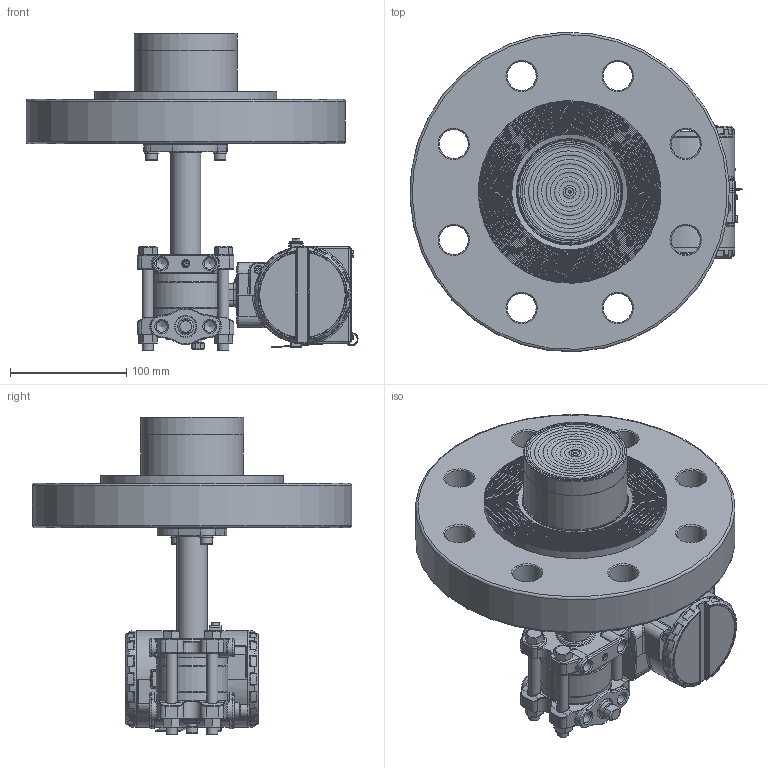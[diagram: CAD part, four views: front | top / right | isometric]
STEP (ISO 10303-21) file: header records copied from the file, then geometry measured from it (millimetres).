
FILE_DESCRIPTION(/* description */ (''),/* implementation_level */ '2;1');
FILE_NAME(/* name */ 'F:\Area\Desenvolvimento_2\Projects\Sensor\projetos\LD30X\montagens 3d - clientes\SELO NIVEL\LD30XL 4-600 RF ext 50 ref 1-4NPT purga acima.stp',/* time_stamp */ '2023-02-15T08:44:30-03:00',/* author */ ('inventor02'),/* organization */ (''),/* preprocessor_version */ 'ST-DEVELOPER v17',/* originating_system */ 'Autodesk Inventor 2019',/* authorisation */ '');
FILE_SCHEMA (('CONFIG_CONTROL_DESIGN'));
Products named in the file (41): LD30XL 4-600 RF ext 50 ref 1-4NPT purga acima; 204-0301-L-4 600 RF ext 50 purga acima; nivel fx3 com baixa diferencial 1-4NPT purga acima; involucro fx0-3 apos a usinagem final; flange diferencial std purga; 101-C-7484-01 flange selo nivel VR; 201-A-0504-tubo união teste 1; bujao 1-4NPT; Sangria; Porca 3-8 x 16 UNC; Paraf. 3-8 x 16 UNC; adaptação tubo x flanges 1-1-2 a 4pol; 101-B-0161-anel cortado do tubo - teste1; 101-B-0162-flange fixação tubo; ANSI B18.3.1M - M6x1 x 16; DIN 127 - A 6; flange 4 600 ext 50; 101-C-0132-09; 096-B-0212-15; 101-B-7702-02 ext 4-50; carcaça vazia com tampas e plaqueta; carcaça LD inox sem letras; Subconjunto plaqueta 300; Plaqueta transmissor; Parafuso da Plaqueta; Rebite da Plaqueta; 096-A-0169-03; 101-A-0502-01; Chapa aterramento externo; ISO 1207 - M4 x 8; DIN 915 - M6 x 10; ANSI B18.3.1M - M4x0,7 x 8; Subconjunto tampa com visor aluminio; tampa pintada; VIDRO DO VISOR; oring 41x1 vidro tampa; Trava do vidro da tampa com visor; trava do vidro VH256; Subconjunto tampa sem visor-aluminio; tampa cega 300 pintada p0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
Assembly tree (51 placements, depth 4):
  LD30XL 4-600 RF ext 50 ref 1-4NPT purga acima
    204-0301-L-4 600 RF ext 50 purga acima
      nivel fx3 com baixa diferencial 1-4NPT purga acima
        involucro fx0-3 apos a usinagem final
        flange diferencial std purga
        101-C-7484-01 flange selo nivel VR
        201-A-0504-tubo união teste 1
        DIN 915 - M6 x 10
        bujao 1-4NPT
        Sangria
        Porca 3-8 x 16 UNC  x4
        Paraf. 3-8 x 16 UNC  x4
      adaptação tubo x flanges 1-1-2 a 4pol
        101-B-0161-anel cortado do tubo - teste1
        101-B-0162-flange fixação tubo
        ANSI B18.3.1M - M6x1 x 16  x2
        DIN 127 - A 6  x2
      flange 4 600 ext 50
        101-C-0132-09
        096-B-0212-15
        101-B-7702-02 ext 4-50
    carcaça vazia com tampas e plaqueta
      carcaça LD inox sem letras
      Subconjunto plaqueta 300
        Plaqueta transmissor
        Parafuso da Plaqueta
        Rebite da Plaqueta
        096-A-0169-03
        101-A-0502-01
      Chapa aterramento externo
      ISO 1207 - M4 x 8
      DIN 915 - M6 x 10
      ANSI B18.3.1M - M4x0,7 x 8  x2
      Subconjunto tampa com visor aluminio
        tampa pintada
        VIDRO DO VISOR
        oring 41x1 vidro tampa
        Trava do vidro da tampa com visor
        trava do vidro VH256
        00034775-0
      Subconjunto tampa sem visor-aluminio
        tampa cega 300 pintada p0
        00034775-0
Bounding box: 285.65 x 274.74 x 273.3 mm (x, y, z)
Volume: 2968654.7 mm3; surface area: 466216 mm2
Topology: 43 solids, 43 shells, 2799 faces, 6669 edges, 3956 vertices
Faces by surface type: bspline 666, cylinder 660, plane 590, torus 501, cone 256, sphere 126
Full cylindrical faces by diameter (mm): 2 x4, 2.1 x2, 2.459 x5, 2.5 x1, 2.642 x1, 2.7 x1, 2.8 x1, 3 x4, 3.242 x4, 3.5 x5, 3.571 x1, 4 x5, 4.3 x1, 4.4 x1, 4.917 x4, 5 x1, 5.5 x3, 6 x6, 6.647 x1, 7 x7, 7.087 x2, 7.6 x2, 7.798 x4, 8 x1, 8.7 x2, 9.525 x4, 9.728 x6, 10 x2, 10.5 x8, 10.719 x2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
Entity records: 96158 total; most frequent: CARTESIAN_POINT 34873, DIRECTION 12703, ORIENTED_EDGE 12518, EDGE_CURVE 6259, AXIS2_PLACEMENT_3D 5624, VERTEX_POINT 3762, CIRCLE 3335, EDGE_LOOP 2877
